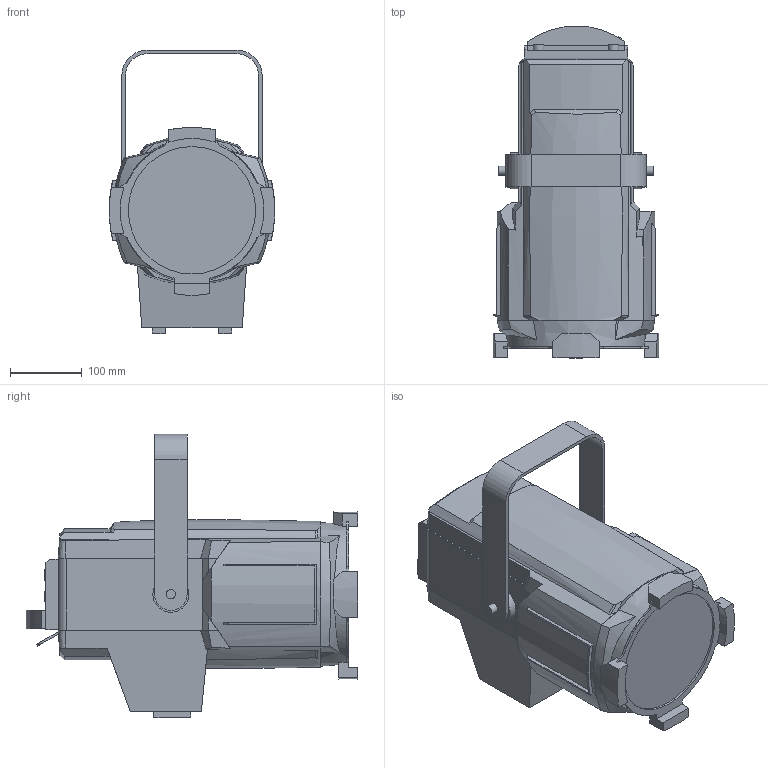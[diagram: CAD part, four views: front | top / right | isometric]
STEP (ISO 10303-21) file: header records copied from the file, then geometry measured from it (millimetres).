
FILE_DESCRIPTION(/* description */ ('Unknown'),/* implementation_level */ '2;1');
FILE_NAME(/* name */ '3D_Robin T14 Fresnel GDTF',/* time_stamp */ '2026-08-19T07:48:32+02:00',/* author */ ('Unknown'),/* organization */ ('Unknown'),/* preprocessor_version */ 'ST-DEVELOPER v20',/* originating_system */ 'Solid Edge',/* authorisation */ 'Unknown');
FILE_SCHEMA (('AUTOMOTIVE_DESIGN {1 0 10303 214 3 1 1}'));
Length unit declared in the file: millimetre
Products named in the file (3): Sestava1; Zaves T14; Robin T14 Fresnel_2
Assembly tree (2 placements, depth 2):
  Sestava1
    Zaves T14
    Robin T14 Fresnel_2
Bounding box: 229.75 x 461.15 x 394.2 mm (x, y, z)
Volume: 14786872.2 mm3; surface area: 492436.7 mm2
Topology: 2 solids, 2 shells, 225 faces, 617 edges, 410 vertices
Faces by surface type: plane 140, cylinder 44, bspline 28, cone 13
Full cylindrical faces by diameter (mm): 13 x2, 14.8 x4, 50 x2, 177 x1
Entity records: 10775 total; most frequent: CARTESIAN_POINT 3902, ORIENTED_EDGE 1192, DIRECTION 956, EDGE_CURVE 596, VERTEX_POINT 400, LINE 326, VECTOR 326, AXIS2_PLACEMENT_3D 315
